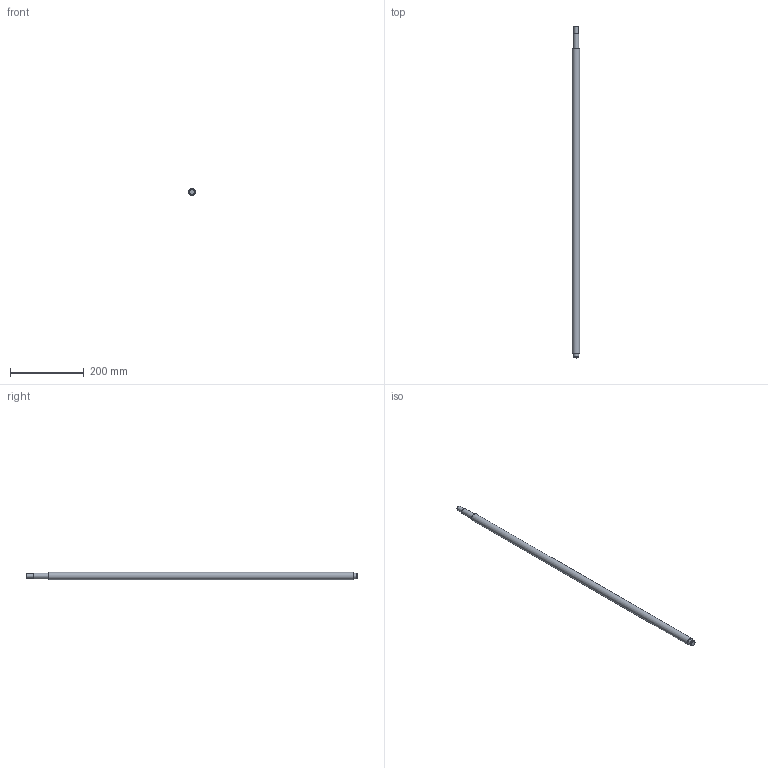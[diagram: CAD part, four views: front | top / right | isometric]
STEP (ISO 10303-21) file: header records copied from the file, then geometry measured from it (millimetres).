
FILE_DESCRIPTION(/* description */ (''),/* implementation_level */ '2;1');
FILE_NAME(/* name */ 'C:\Users\David\Desktop\stepFiles\Profilfuehrung\KUS2010x900.stp',/* time_stamp */ '2018-06-24T15:12:49+02:00',/* author */ ('David'),/* organization */ (''),/* preprocessor_version */ 'ST-DEVELOPER v17',/* originating_system */ 'Autodesk Inventor 2019',/* authorisation */ '');
FILE_SCHEMA (('AUTOMOTIVE_DESIGN { 1 0 10303 214 3 1 1 }'));
Length unit declared in the file: millimetre
Products named in the file (1): SFU2005xvaiabel
Bounding box: 20 x 900 x 20 mm (x, y, z)
Volume: 271408.7 mm3; surface area: 55846 mm2
Topology: 1 solids, 1 shells, 15 faces, 34 edges, 26 vertices
Faces by surface type: plane 7, cylinder 6, cone 2
Full cylindrical faces by diameter (mm): 12 x1, 14.3 x1, 15 x3, 20 x1
Entity records: 493 total; most frequent: DIRECTION 92, CARTESIAN_POINT 76, ORIENTED_EDGE 68, AXIS2_PLACEMENT_3D 42, EDGE_CURVE 34, CIRCLE 26, VERTEX_POINT 26, EDGE_LOOP 20
